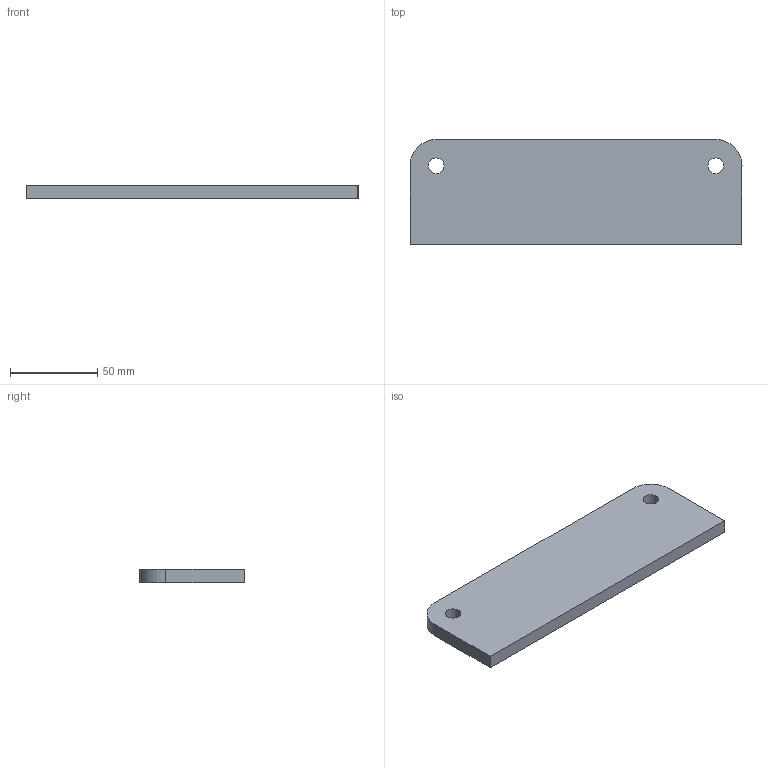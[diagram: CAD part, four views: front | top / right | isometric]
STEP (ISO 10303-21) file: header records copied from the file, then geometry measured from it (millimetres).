
FILE_DESCRIPTION(/* description */ (''),/* implementation_level */ '2;1');
FILE_NAME(/* name */ 'Pos146-Plaatwerk D= 8-S235JRG2-30st',/* time_stamp */ '2024-08-06T13:37:43+02:00',/* author */ (''),/* organization */ (''),/* preprocessor_version */ 'ST-DEVELOPER v16.5',/* originating_system */ 'HiCAD 2024 2901.2 Build 361',/* authorisation */ '');
FILE_SCHEMA (('AUTOMOTIVE_DESIGN { 1 0 10303 214 1 1 1 1 }'));
Length unit declared in the file: millimetre
Products named in the file (1): Pos146-Plaatwerk D= 8-S235JRG2-30st
Bounding box: 190 x 60 x 8 mm (x, y, z)
Volume: 89409.6 mm3; surface area: 26701.8 mm2
Topology: 1 solids, 1 shells, 10 faces, 26 edges, 18 vertices
Faces by surface type: plane 6, cylinder 4
Full cylindrical faces by diameter (mm): 9 x2
Entity records: 532 total; most frequent: DIRECTION 50, CARTESIAN_POINT 48, PRESENTATION_STYLE_ASSIGNMENT 45, COLOUR_RGB 45, DRAUGHTING_PRE_DEFINED_CURVE_FONT 44, CURVE_STYLE 44, OVER_RIDING_STYLED_ITEM 44, ORIENTED_EDGE 44
